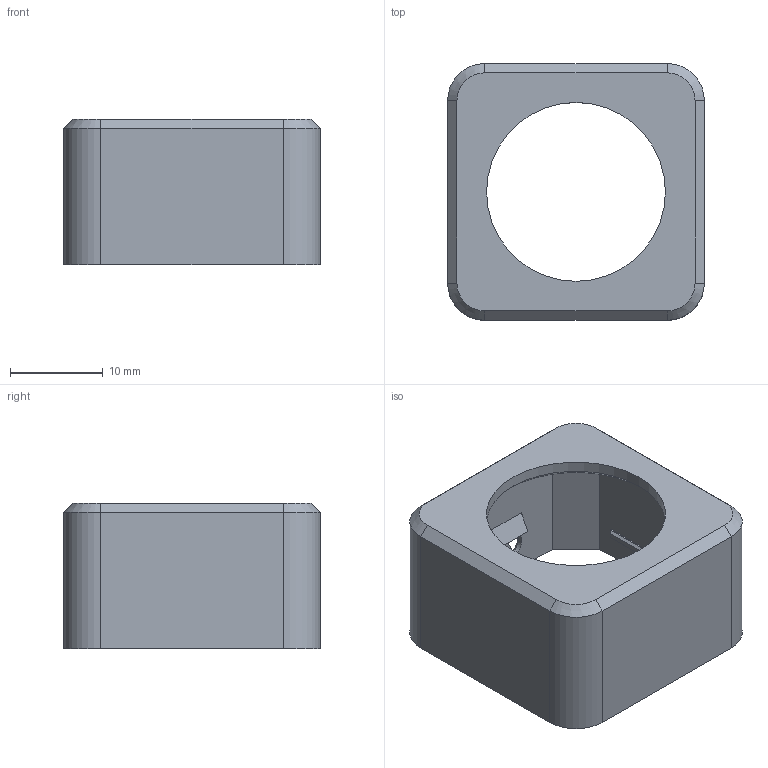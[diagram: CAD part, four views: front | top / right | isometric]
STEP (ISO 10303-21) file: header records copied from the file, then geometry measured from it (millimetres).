
FILE_DESCRIPTION((''),'2;1');
FILE_NAME('tinytouch-v2-top.step','1970-01-01T00:00:00Z',(''),(''),'','','');
FILE_SCHEMA (('AUTOMOTIVE_DESIGN { 1 0 10303 214 3 1 1 }'));
Length unit declared in the file: millimetre
Products named in the file (1): tinytouch-v2-top
Bounding box: 27.7 x 27.7 x 15.72 mm (x, y, z)
Volume: 2402.4 mm3; surface area: 3929.9 mm2
Topology: 1 solids, 1 shells, 71 faces, 171 edges, 105 vertices
Faces by surface type: plane 53, cone 9, cylinder 9
Full cylindrical faces by diameter (mm): 19.3 x1
Entity records: 2046 total; most frequent: CARTESIAN_POINT 348, ORIENTED_EDGE 342, DIRECTION 342, EDGE_CURVE 171, LINE 144, VECTOR 144, VERTEX_POINT 105, AXIS2_PLACEMENT_3D 99
